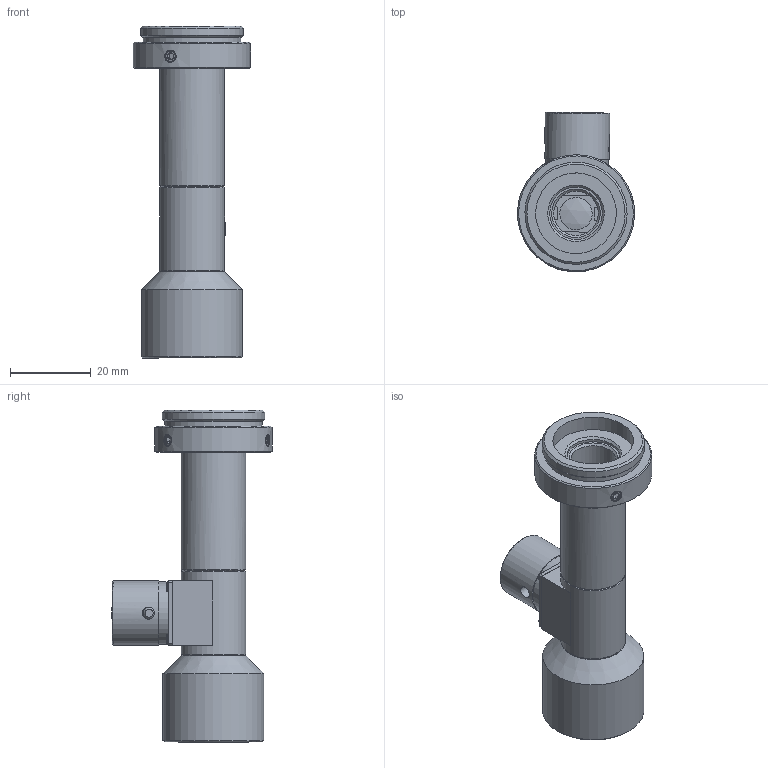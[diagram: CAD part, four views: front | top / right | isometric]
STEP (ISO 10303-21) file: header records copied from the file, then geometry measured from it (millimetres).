
FILE_DESCRIPTION(('STEP AP214'),'1');
FILE_NAME('RTK-2F-M65.stp','2026-07-31T08:36:00',(' '),(' '),'Spatial InterOp 3D',' ',' ');
FILE_SCHEMA(('AUTOMOTIVE_DESIGN { 1 0 10303 214 1 1 1 1 }'));
Length unit declared in the file: metre
Products named in the file (2): RTK-2F-M65; Component1
Assembly tree (1 placements, depth 2):
  RTK-2F-M65
    Component1
Bounding box: 28.99 x 39.61 x 82.18 mm (x, y, z)
Volume: 17331.6 mm3; surface area: 13597.2 mm2
Topology: 1 solids, 13 shells, 350 faces, 838 edges, 550 vertices
Faces by surface type: plane 169, cone 90, cylinder 74, torus 8, sphere 6, bspline 3
Full cylindrical faces by diameter (mm): 1.7 x8, 1.8 x4, 2.5 x3, 3 x3, 6.5 x1, 8 x2, 9 x1, 10 x1, 11 x1, 12.7 x1, 13 x2, 13.4 x1, 13.7 x1, 14 x2, 14.2 x3, 15.5 x1, 16 x7, 17.5 x2, 18 x1, 18.5 x1, 20 x1, 21 x2, 21.8 x1, 24.12 x1, 25 x1, 25.32 x1, 29 x1
Entity records: 12674 total; most frequent: CARTESIAN_POINT 2408, DIRECTION 1588, ORIENTED_EDGE 1316, AXIS2_PLACEMENT_3D 668, EDGE_CURVE 658, EDGE_LOOP 522, VERTEX_POINT 493, FACE_OUTER_BOUND 415
